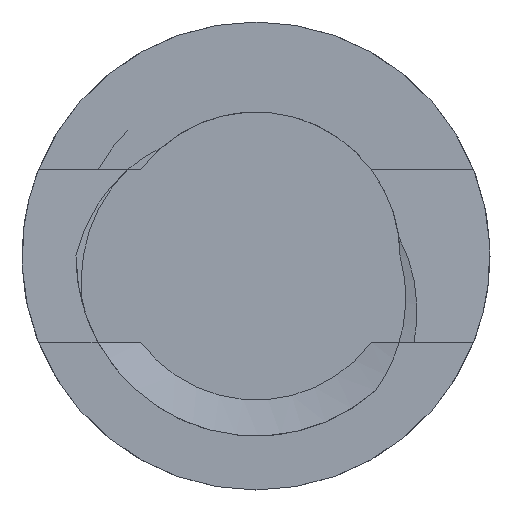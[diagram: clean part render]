
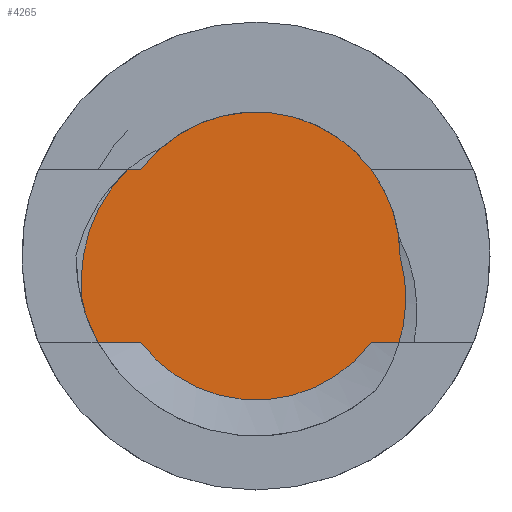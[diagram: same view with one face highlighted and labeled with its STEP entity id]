
A CAD part, left-side view. The second image highlights one B-rep face of the part: STEP entity #4265.
In plain terms, the highlighted planar face has unit normal (-1, 0, 0).
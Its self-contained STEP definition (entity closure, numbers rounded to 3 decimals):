
#422=B_SPLINE_CURVE_WITH_KNOTS('',3,(#55193,#55194,#55195,#55196),
 .UNSPECIFIED.,.F.,.F.,(4,4),(0.003,0.004),
 .UNSPECIFIED.);
#514=B_SPLINE_CURVE_WITH_KNOTS('',3,(#82083,#82084,#82085,#82086),
 .UNSPECIFIED.,.F.,.F.,(4,4),(0.,0.003),
 .UNSPECIFIED.);
#606=B_SPLINE_CURVE_WITH_KNOTS('',3,(#109659,#109660,#109661,#109662,#109663),
 .UNSPECIFIED.,.F.,.F.,(4,1,4),(0.,0.002,
0.004),.UNSPECIFIED.);
#614=CIRCLE('',#4293,4.);
#615=CIRCLE('',#4296,4.);
#653=CIRCLE('',#4458,5.);
#1563=ORIENTED_EDGE('',*,*,#1994,.T.);
#1564=ORIENTED_EDGE('',*,*,#1990,.T.);
#1565=ORIENTED_EDGE('',*,*,#2174,.F.);
#1566=ORIENTED_EDGE('',*,*,#2313,.F.);
#1567=ORIENTED_EDGE('',*,*,#2632,.F.);
#1568=ORIENTED_EDGE('',*,*,#2545,.F.);
#1990=EDGE_CURVE('',#2655,#2654,#614,.T.);
#1994=EDGE_CURVE('',#2657,#2655,#615,.T.);
#2174=EDGE_CURVE('',#2835,#2654,#422,.T.);
#2313=EDGE_CURVE('',#2929,#2835,#514,.T.);
#2545=EDGE_CURVE('',#2657,#3028,#606,.T.);
#2632=EDGE_CURVE('',#3028,#2929,#653,.T.);
#2654=VERTEX_POINT('',#6168);
#2655=VERTEX_POINT('',#6170);
#2657=VERTEX_POINT('',#6715);
#2835=VERTEX_POINT('',#55192);
#2929=VERTEX_POINT('',#82082);
#3028=VERTEX_POINT('',#109664);
#3785=EDGE_LOOP('',(#1563,#1564,#1565,#1566,#1567,#1568));
#4017=FACE_BOUND('',#3785,.T.);
#4041=PLANE('',#4457);
#4265=ADVANCED_FACE('',(#4017),#4041,.F.);
#4293=AXIS2_PLACEMENT_3D('',#6169,#4481,#4482);
#4296=AXIS2_PLACEMENT_3D('',#6717,#4488,#4489);
#4457=AXIS2_PLACEMENT_3D('',#110382,#5036,#5037);
#4458=AXIS2_PLACEMENT_3D('',#110383,#5038,#5039);
#4481=DIRECTION('',(-1.,0.,0.));
#4482=DIRECTION('',(0.,0.,1.));
#4488=DIRECTION('',(-1.,0.,0.));
#4489=DIRECTION('',(0.,0.,1.));
#5036=DIRECTION('',(1.,0.,0.));
#5037=DIRECTION('',(0.,0.,-1.));
#5038=DIRECTION('',(1.,0.,0.));
#5039=DIRECTION('',(0.,0.,-1.));
#6168=CARTESIAN_POINT('',(-2.,2.66,2.988));
#6169=CARTESIAN_POINT('',(-2.,0.,0.));
#6170=CARTESIAN_POINT('',(-2.,-3.2,2.4));
#6715=CARTESIAN_POINT('',(-2.,-4.,0.));
#6717=CARTESIAN_POINT('',(-2.,0.,0.));
#55192=CARTESIAN_POINT('',(-2.,3.561,2.4));
#55193=CARTESIAN_POINT('',(-2.,3.561,2.4));
#55194=CARTESIAN_POINT('',(-2.,3.29,2.635));
#55195=CARTESIAN_POINT('',(-2.,2.987,2.835));
#55196=CARTESIAN_POINT('',(-2.,2.66,2.988));
#82082=CARTESIAN_POINT('',(-2.,5.,0.));
#82083=CARTESIAN_POINT('',(-2.,5.,0.));
#82084=CARTESIAN_POINT('',(-2.,4.786,0.934));
#82085=CARTESIAN_POINT('',(-2.,4.28,1.777));
#82086=CARTESIAN_POINT('',(-2.,3.561,2.4));
#109659=CARTESIAN_POINT('',(-2.,-4.,0.));
#109660=CARTESIAN_POINT('',(-2.,-4.182,-0.634));
#109661=CARTESIAN_POINT('',(-2.,-4.241,-1.969));
#109662=CARTESIAN_POINT('',(-2.,-3.701,-3.193));
#109663=CARTESIAN_POINT('',(-2.,-3.325,-3.735));
#109664=CARTESIAN_POINT('',(-2.,-3.325,-3.735));
#110382=CARTESIAN_POINT('',(-2.,0.,0.));
#110383=CARTESIAN_POINT('',(-2.,0.,0.));
